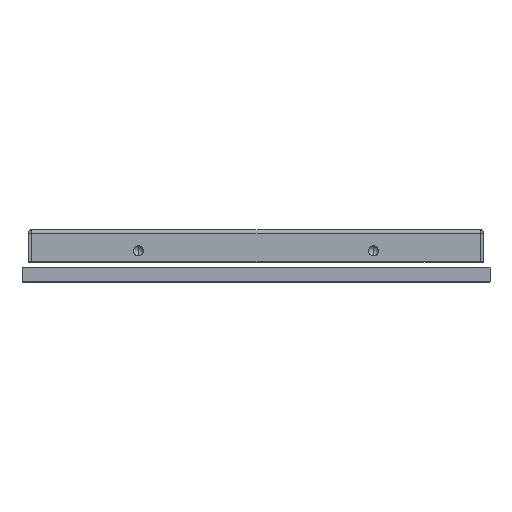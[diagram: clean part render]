
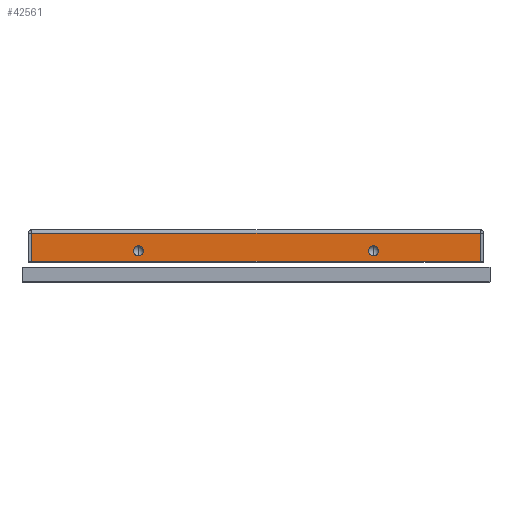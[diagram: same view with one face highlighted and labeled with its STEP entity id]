
A CAD part, top view. The second image highlights one B-rep face of the part: STEP entity #42561.
In plain terms, the highlighted planar face has unit normal (0, 0, 1).
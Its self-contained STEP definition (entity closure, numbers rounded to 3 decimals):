
#434=DIRECTION('',(0.,-1.,0.));
#435=VECTOR('',#434,1.2);
#436=CARTESIAN_POINT('',(-9.53,0.,11.53));
#437=LINE('',#436,#435);
#441=DIRECTION('',(0.,1.,0.));
#442=VECTOR('',#441,1.2);
#443=CARTESIAN_POINT('',(9.53,-1.2,11.53));
#444=LINE('',#443,#442);
#448=DIRECTION('',(1.,0.,0.));
#449=VECTOR('',#448,19.06);
#450=CARTESIAN_POINT('',(-9.53,-1.2,11.53));
#451=LINE('',#450,#449);
#455=CARTESIAN_POINT('',(5.,-0.75,11.53));
#456=DIRECTION('',(0.,0.,1.));
#457=DIRECTION('',(0.,-1.,0.));
#458=AXIS2_PLACEMENT_3D('',#455,#456,#457);
#463=CARTESIAN_POINT('',(5.,-0.75,11.53));
#464=DIRECTION('',(0.,0.,1.));
#465=DIRECTION('',(0.,1.,0.));
#466=AXIS2_PLACEMENT_3D('',#463,#464,#465);
#471=CARTESIAN_POINT('',(-5.,-0.75,11.53));
#472=DIRECTION('',(0.,0.,1.));
#473=DIRECTION('',(0.,-1.,0.));
#474=AXIS2_PLACEMENT_3D('',#471,#472,#473);
#479=CARTESIAN_POINT('',(-5.,-0.75,11.53));
#480=DIRECTION('',(0.,0.,1.));
#481=DIRECTION('',(0.,1.,0.));
#482=AXIS2_PLACEMENT_3D('',#479,#480,#481);
#12458=DIRECTION('',(-1.,0.,0.));
#12459=VECTOR('',#12458,19.06);
#12460=CARTESIAN_POINT('',(9.53,0.,11.53));
#12461=LINE('',#12460,#12459);
#35691=CARTESIAN_POINT('',(-9.53,0.,11.53));
#35692=CARTESIAN_POINT('',(-9.53,-1.2,11.53));
#35693=VERTEX_POINT('',#35691);
#35694=VERTEX_POINT('',#35692);
#35695=CARTESIAN_POINT('',(9.53,-1.2,11.53));
#35696=VERTEX_POINT('',#35695);
#35697=CARTESIAN_POINT('',(9.53,0.,11.53));
#35698=VERTEX_POINT('',#35697);
#35799=CARTESIAN_POINT('',(5.,-0.962,11.53));
#35800=CARTESIAN_POINT('',(5.,-0.538,11.53));
#35801=VERTEX_POINT('',#35799);
#35802=VERTEX_POINT('',#35800);
#35811=CARTESIAN_POINT('',(-5.,-0.962,11.53));
#35812=CARTESIAN_POINT('',(-5.,-0.538,11.53));
#35813=VERTEX_POINT('',#35811);
#35814=VERTEX_POINT('',#35812);
#42535=CARTESIAN_POINT('',(-9.53,0.15,11.53));
#42536=DIRECTION('',(0.,0.,1.));
#42537=DIRECTION('',(-1.,0.,0.));
#42538=AXIS2_PLACEMENT_3D('',#42535,#42536,#42537);
#42539=PLANE('',#42538);
#42541=ORIENTED_EDGE('',*,*,#42540,.F.);
#42543=ORIENTED_EDGE('',*,*,#42542,.F.);
#42544=ORIENTED_EDGE('',*,*,#42525,.F.);
#42546=ORIENTED_EDGE('',*,*,#42545,.F.);
#42547=EDGE_LOOP('',(#42541,#42543,#42544,#42546));
#42548=FACE_OUTER_BOUND('',#42547,.F.);
#42550=ORIENTED_EDGE('',*,*,#42549,.T.);
#42552=ORIENTED_EDGE('',*,*,#42551,.T.);
#42553=EDGE_LOOP('',(#42550,#42552));
#42554=FACE_BOUND('',#42553,.F.);
#42556=ORIENTED_EDGE('',*,*,#42555,.T.);
#42558=ORIENTED_EDGE('',*,*,#42557,.T.);
#42559=EDGE_LOOP('',(#42556,#42558));
#42560=FACE_BOUND('',#42559,.F.);
#459=CIRCLE('',#458,0.212);
#467=CIRCLE('',#466,0.212);
#475=CIRCLE('',#474,0.212);
#483=CIRCLE('',#482,0.212);
#42525=EDGE_CURVE('',#35696,#35698,#444,.T.);
#42540=EDGE_CURVE('',#35693,#35694,#437,.T.);
#42542=EDGE_CURVE('',#35698,#35693,#12461,.T.);
#42545=EDGE_CURVE('',#35694,#35696,#451,.T.);
#42549=EDGE_CURVE('',#35801,#35802,#459,.T.);
#42551=EDGE_CURVE('',#35802,#35801,#467,.T.);
#42555=EDGE_CURVE('',#35813,#35814,#475,.T.);
#42557=EDGE_CURVE('',#35814,#35813,#483,.T.);
#42561=ADVANCED_FACE('',(#42548,#42554,#42560),#42539,.T.);
